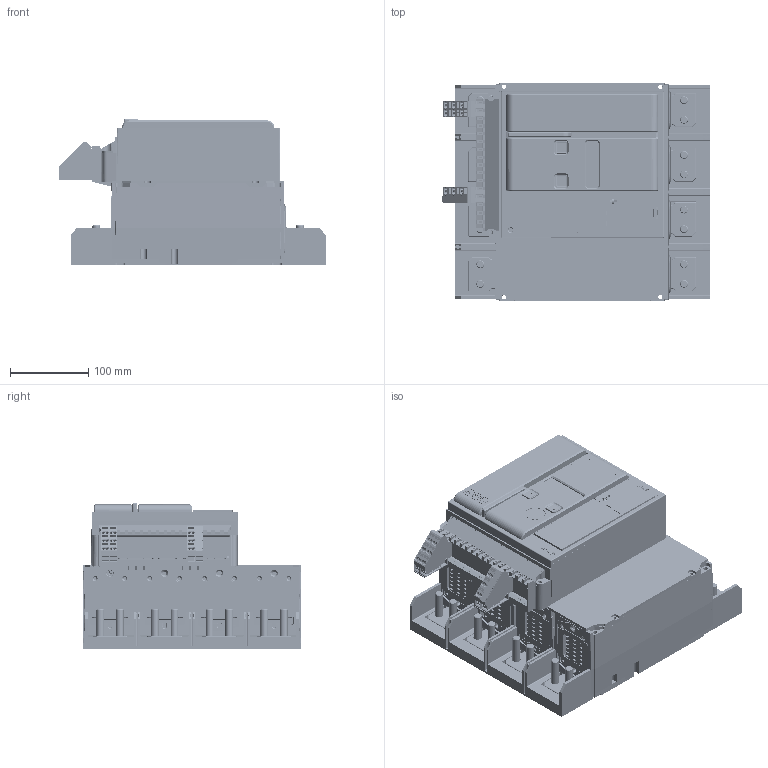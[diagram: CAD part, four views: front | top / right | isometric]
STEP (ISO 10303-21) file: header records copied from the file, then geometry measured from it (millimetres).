
FILE_DESCRIPTION((''),'2;1');
FILE_NAME('CDM6EI-1600M-4P','2019-10-11T',('li.xiong'),(''),'PRO/ENGINEER BY PARAMETRIC TECHNOLOGY CORPORATION, 2015440','PRO/ENGINEER BY PARAMETRIC TECHNOLOGY CORPORATION, 2015440','');
FILE_SCHEMA(('CONFIG_CONTROL_DESIGN'));
Products named in the file (1): CDM6EI-1600M-4P
Bounding box: 342.28 x 280 x 185.97 mm (x, y, z)
Volume: 7363803.8 mm3; surface area: 950247.2 mm2
Topology: 6 solids, 39 shells, 13397 faces, 35024 edges, 22829 vertices
Faces by surface type: plane 7697, cylinder 4757, extrusion 465, cone 251, torus 121, sphere 64, bspline 42
Entity records: 420781 total; most frequent: CARTESIAN_POINT 82821, ORIENTED_EDGE 69946, DIRECTION 69944, EDGE_CURVE 34973, VECTOR 23356, AXIS2_PLACEMENT_3D 23294, LINE 22891, VERTEX_POINT 22829
